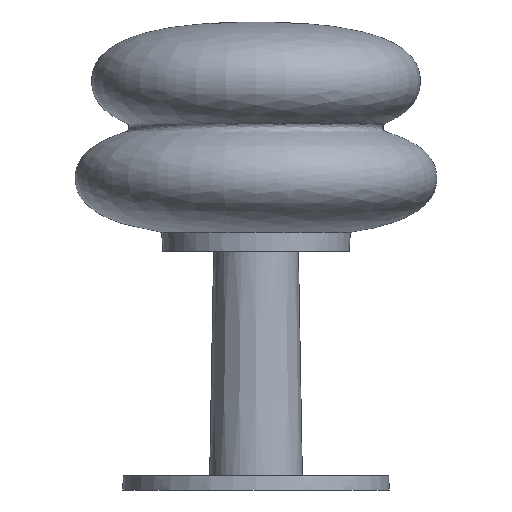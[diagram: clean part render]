
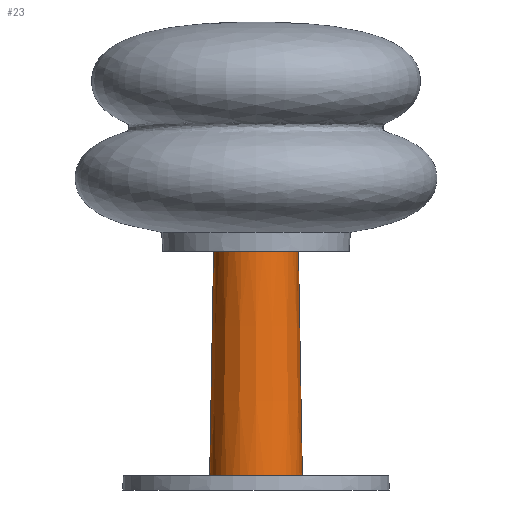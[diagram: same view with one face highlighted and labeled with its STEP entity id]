
A CAD part, front view. The second image highlights one B-rep face of the part: STEP entity #23.
In plain terms, the highlighted free-form (B-spline) face has degree [3, 2] with [4, 5] control points.
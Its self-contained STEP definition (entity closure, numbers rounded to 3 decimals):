
#23=ADVANCED_FACE('',(#36),#184,.T.);
#36=FACE_OUTER_BOUND('',#49,.T.);
#49=EDGE_LOOP('',(#87,#88,#89,#90));
#87=ORIENTED_EDGE('',*,*,#113,.F.);
#88=ORIENTED_EDGE('',*,*,#120,.T.);
#89=ORIENTED_EDGE('',*,*,#111,.F.);
#90=ORIENTED_EDGE('',*,*,#121,.F.);
#111=EDGE_CURVE('',#169,#171,#155,.T.);
#113=EDGE_CURVE('',#172,#170,#156,.T.);
#120=EDGE_CURVE('',#172,#171,#135,.T.);
#121=EDGE_CURVE('',#170,#169,#136,.T.);
#135=TRIMMED_CURVE($,#147,(#902),(#903),.T.,.CARTESIAN.);
#136=TRIMMED_CURVE($,#148,(#905),(#906),.T.,.CARTESIAN.);
#147=CIRCLE('',#290,19.215);
#148=CIRCLE('',#291,17.591);
#155=(
BOUNDED_CURVE()
B_SPLINE_CURVE(3,(#871,#872,#873,#874),.UNSPECIFIED.,.F.,.F.)
B_SPLINE_CURVE_WITH_KNOTS((4,4),(110.393,203.408),
 .UNSPECIFIED.)
CURVE()
GEOMETRIC_REPRESENTATION_ITEM()
RATIONAL_B_SPLINE_CURVE((1.,1.,1.,1.))
REPRESENTATION_ITEM('')
);
#156=(
BOUNDED_CURVE()
B_SPLINE_CURVE(3,(#878,#879,#880,#881),.UNSPECIFIED.,.F.,.F.)
B_SPLINE_CURVE_WITH_KNOTS((4,4),(-203.408,-110.393),
 .UNSPECIFIED.)
CURVE()
GEOMETRIC_REPRESENTATION_ITEM()
RATIONAL_B_SPLINE_CURVE((1.,1.,1.,1.))
REPRESENTATION_ITEM('')
);
#169=VERTEX_POINT('',#830);
#170=VERTEX_POINT('',#831);
#171=VERTEX_POINT('',#832);
#172=VERTEX_POINT('',#833);
#184=(
BOUNDED_SURFACE()
B_SPLINE_SURFACE(3,2,((#431,#432,#433,#434,#435),(#436,#437,#438,#439,#440),
(#441,#442,#443,#444,#445),(#446,#447,#448,#449,#450)),.UNSPECIFIED.,.F.,
 .F.,.F.)
B_SPLINE_SURFACE_WITH_KNOTS((4,4),(3,2,3),(110.393,203.408),
(235.608,353.413,471.217),.UNSPECIFIED.)
GEOMETRIC_REPRESENTATION_ITEM()
RATIONAL_B_SPLINE_SURFACE(((1.,0.707,1.,0.707,1.),
(1.,0.707,1.,0.707,1.),(1.,0.707,1.,
0.707,1.),(1.,0.707,1.,0.707,1.)))
REPRESENTATION_ITEM('')
SURFACE()
);
#290=AXIS2_PLACEMENT_3D($,#901,#320,#321);
#291=AXIS2_PLACEMENT_3D($,#904,#322,#323);
#320=DIRECTION('',(0.,0.,1.));
#321=DIRECTION('',(-1.,0.,0.));
#322=DIRECTION('',(0.,0.,1.));
#323=DIRECTION('',(-1.,0.,0.));
#431=CARTESIAN_POINT('',(-17.591,0.,99.));
#432=CARTESIAN_POINT('',(-17.591,-17.591,99.));
#433=CARTESIAN_POINT('',(0.,-17.591,99.));
#434=CARTESIAN_POINT('',(17.591,-17.591,99.));
#435=CARTESIAN_POINT('',(17.591,0.,99.));
#436=CARTESIAN_POINT('',(-18.133,0.,68.));
#437=CARTESIAN_POINT('',(-18.133,-18.133,68.));
#438=CARTESIAN_POINT('',(0.,-18.133,68.));
#439=CARTESIAN_POINT('',(18.133,-18.133,68.));
#440=CARTESIAN_POINT('',(18.133,0.,68.));
#441=CARTESIAN_POINT('',(-18.674,0.,37.));
#442=CARTESIAN_POINT('',(-18.674,-18.674,37.));
#443=CARTESIAN_POINT('',(0.,-18.674,37.));
#444=CARTESIAN_POINT('',(18.674,-18.674,37.));
#445=CARTESIAN_POINT('',(18.674,0.,37.));
#446=CARTESIAN_POINT('',(-19.215,0.,6.));
#447=CARTESIAN_POINT('',(-19.215,-19.215,6.));
#448=CARTESIAN_POINT('',(0.,-19.215,6.));
#449=CARTESIAN_POINT('',(19.215,-19.215,6.));
#450=CARTESIAN_POINT('',(19.215,0.,6.));
#830=CARTESIAN_POINT('',(17.591,0.,99.));
#831=CARTESIAN_POINT('',(-17.591,0.,99.));
#832=CARTESIAN_POINT('',(19.215,0.,6.));
#833=CARTESIAN_POINT('',(-19.215,0.,6.));
#871=CARTESIAN_POINT('',(17.591,0.,99.));
#872=CARTESIAN_POINT('',(18.133,0.,68.));
#873=CARTESIAN_POINT('',(18.674,0.,37.));
#874=CARTESIAN_POINT('',(19.215,0.,6.));
#878=CARTESIAN_POINT('',(-19.215,0.,6.));
#879=CARTESIAN_POINT('',(-18.674,0.,37.));
#880=CARTESIAN_POINT('',(-18.133,0.,68.));
#881=CARTESIAN_POINT('',(-17.591,0.,99.));
#901=CARTESIAN_POINT('',(0.,0.,6.));
#902=CARTESIAN_POINT('',(-19.215,0.,6.));
#903=CARTESIAN_POINT('',(19.215,0.,6.));
#904=CARTESIAN_POINT('',(0.,0.,99.));
#905=CARTESIAN_POINT('',(-17.591,0.,99.));
#906=CARTESIAN_POINT('',(17.591,0.,99.));
